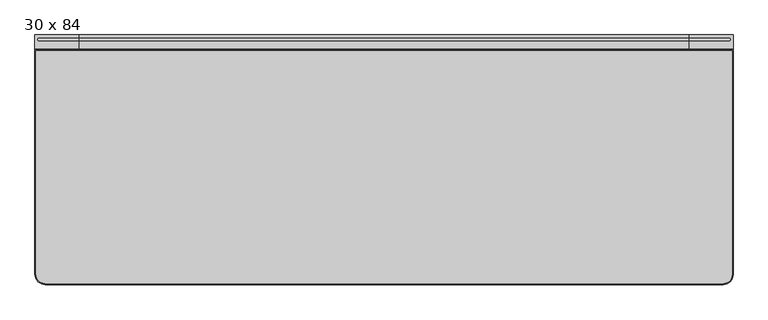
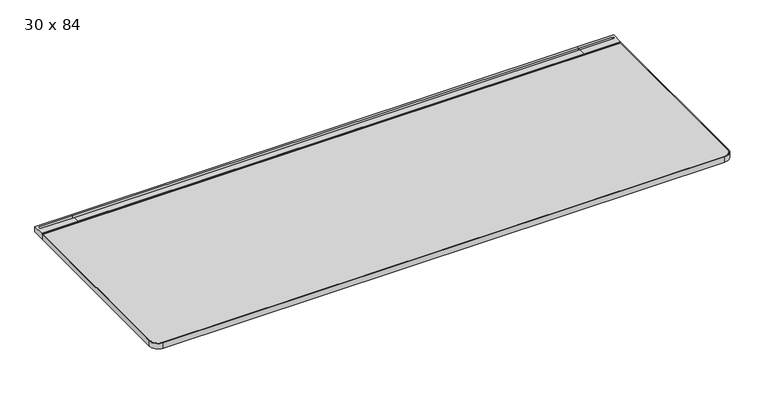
"""IFC4 building model written with IfcOpenShell, lengths in millimetres: furniture geometry, Steelcase - C Scape - Desking - Straight : 30 x 84."""

from ifc_helpers import new_model, si_unit, point, frame, frame_2d, origin, place, context, project, spatial, polyline, circle_curve, trimmed, segment, composite_curve, outline, extrude, faceted_brep, source, transform, mapped, element, save
from ifc_brep_helpers import plane_surface, cylinder_surface, revolved_surface, advanced_brep


def furniture_30_x_84_f73faef1(model_context):
    return source(origin(), model_context, "Body", "SolidModel", [
        advanced_brep(
        [(1999.0562243, -45.3135132, 703.3768), (1999.0562243, -45.3135132, 722.4268341), (1999.0562243, -42.7750923, 722.4268341), (1999.0562243, -42.7750923, 725.932), (1999.0562243, -19.3290527, 725.932), (1999.0562243, -19.3290527, 713.486), (1999.0562243, -8.5111084, 713.486), (1999.0562243, -8.5111084, 725.932), (1999.0562243, 0.0, 725.932), (1999.0562243, 0.0, 705.1038636), (1999.0562243, -3.2278472, 705.1038636), (1999.0562243, -4.0331902, 703.3768), (2132.0760119, -45.3135132, 703.3768), (2132.0760119, -4.0331902, 703.3768), (2132.0760119, -3.2278472, 705.1038636), (2132.0760119, 0.0, 705.1038636), (2132.0760119, 0.0, 725.932), (2132.0760119, -42.7750923, 725.932), (2132.0760119, -42.7750923, 722.4268341), (2132.0760119, -45.3135132, 722.4268341), (2120.3139392, -8.5111084, 725.932), (2120.3139392, -19.3290527, 725.932), (2120.3139392, -19.3290527, 713.486), (2120.3139392, -8.5111084, 713.486)],
        [
            (0, 1),
            (1, 2),
            (2, 3),
            (3, 4),
            (4, 5),
            (5, 6),
            (6, 7),
            (7, 8),
            (8, 9),
            (9, 10),
            (10, 11),
            (11, 0),
            (12, 13),
            (13, 14),
            (14, 15),
            (15, 16),
            (16, 17),
            (17, 18),
            (18, 19),
            (19, 12),
            (11, 13),
            (12, 0),
            (10, 14),
            (9, 15),
            (8, 16),
            (7, 20),
            (20, 21, circle_curve(frame((2120.3139392, -13.9200806, 725.932), z_axis=(0.0, 0.0, -1.0), x_axis=(-1.0, 0.0, 0.0)), 5.4089722)),
            (21, 4),
            (3, 17),
            (2, 18),
            (1, 19),
            (5, 22),
            (22, 23, circle_curve(frame((2120.3139392, -13.9200806, 713.486), z_axis=(0.0, 0.0, 1.0), x_axis=(-1.0, 0.0, 0.0)), 5.4089722)),
            (23, 6),
            (23, 20),
            (22, 21),
        ],
        [
            plane_surface(frame((1999.0562243, -45.3135132, 703.3768), z_axis=(-1.0, 0.0, 0.0), x_axis=(0.0, 1.0, 0.0))),
            plane_surface(frame((2132.0760119, -45.3135132, 703.3768), z_axis=(1.0, 0.0, 0.0), x_axis=(0.0, -1.0, 0.0))),
            plane_surface(frame((1999.0562243, -45.3135132, 703.3768), z_axis=(0.0, 0.0, -1.0), x_axis=(1.0, 0.0, 0.0))),
            plane_surface(frame((1999.0562243, -4.0331902, 703.3768), z_axis=(0.0, 0.9063077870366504, -0.4226182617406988), x_axis=(1.0, 0.0, 0.0))),
            plane_surface(frame((1999.0562243, -3.2278472, 705.1038636), z_axis=(0.0, 0.0, -1.0), x_axis=(1.0, 0.0, 0.0))),
            plane_surface(frame((1999.0562243, 0.0, 705.1038636), z_axis=(0.0, 1.0, 0.0), x_axis=(1.0, 0.0, 0.0))),
            plane_surface(frame((1999.0562243, 0.0, 725.932), z_axis=(0.0, 0.0, 1.0), x_axis=(1.0, 0.0, 0.0))),
            plane_surface(frame((1999.0562243, -42.7750923, 725.932), z_axis=(0.0, -1.0, 0.0), x_axis=(1.0, 0.0, 0.0))),
            plane_surface(frame((1999.0562243, -42.7750923, 722.4268341), z_axis=(0.0, 0.0, 1.0), x_axis=(1.0, 0.0, 0.0))),
            plane_surface(frame((1999.0562243, -45.3135132, 722.4268341), z_axis=(0.0, -1.0, 0.0), x_axis=(1.0, 0.0, 0.0))),
            plane_surface(frame((2120.3139392, -8.5111084, 713.486), z_axis=(0.0, 0.0, 1.0), x_axis=(-1.0, 0.0, 0.0))),
            plane_surface(frame((1999.0562243, -8.5111084, 731.2180541), z_axis=(0.0, -1.0, 0.0), x_axis=(0.0, 0.0, -1.0))),
            revolved_surface(polyline([(2114.904967, -13.9200806, 725.932), (2114.904967, -13.9200806, 713.486)]), (2120.3139392, -13.9200806, 713.486), (0.0, 0.0, 1.0)),
            plane_surface(frame((2120.3139392, -19.3290527, 731.2180541), z_axis=(0.0, 1.0, 0.0), x_axis=(0.0, 0.0, -1.0))),
        ],
        [
            (0, [[1, 2, 3, 4, 5, 6, 7, 8, 9, 10, 11, 12]]),
            (1, [[13, 14, 15, 16, 17, 18, 19, 20]]),
            (2, [[21, -13, 22, -12]]),
            (3, [[23, -14, -21, -11]]),
            (4, [[24, -15, -23, -10]]),
            (5, [[25, -16, -24, -9]]),
            (6, [[-25, -8, 26, 27, 28, -4, 29, -17]]),
            (7, [[30, -18, -29, -3]]),
            (8, [[31, -19, -30, -2]]),
            (9, [[-22, -20, -31, -1]]),
            (10, [[-6, 32, 33, 34]]),
            (11, [[35, -26, -7, -34]]),
            (12, [[36, -27, -35, -33]]),
            (13, [[-5, -28, -36, -32]]),
        ],
    ),
        faceted_brep([(2113.0252487, -565.0752923, 700.7093833), (2113.0252487, -565.0752923, 703.3768), (1999.0562243, -565.0752923, 703.3768), (1999.0562243, -565.0752923, 679.3263935), (2014.6903818, -565.0752923, 679.3263935), (2017.310924, -565.0752923, 693.4200291), (2098.7501391, -565.0752923, 693.4200291), (2113.0252487, -4.0331902, 700.7093833), (2098.7501391, -4.0331902, 693.4200291), (2017.310924, -4.0331902, 693.4200291), (2005.4046772, -4.0331902, 629.3866), (1999.0562243, -4.0331902, 629.3866), (1999.0562243, -4.0331902, 703.3768), (2113.0252487, -4.0331902, 703.3768), (2012.5251068, -376.5599397, 667.6812472), (2005.4046772, -364.1172546, 629.3866), (1999.0562243, -364.1172546, 629.3866), (1999.0562243, -376.5599397, 667.6812472)], [[[0, 1, 2, 3, 4, 5, 6]], [[7, 8, 9, 10, 11, 12, 13]], [[6, 8, 7, 0]], [[5, 9, 8, 6]], [[9, 5, 4, 14, 15, 10]], [[10, 15, 16, 11]], [[11, 16, 17, 3, 2, 12]], [[1, 13, 12, 2]], [[0, 7, 13, 1]], [[14, 4, 3, 17]], [[17, 16, 15, 14]]]),
        extrude(outline(composite_curve([segment(polyline([(-293.5216187, 657.3775839), (-559.0022133, 680.1371551)]), True, "CONTINUOUS"), segment(trimmed(circle_curve(frame_2d((-558.7581271, 682.9843154)), 2.8576039), [point((-559.0022133, 680.1371551))], [point((-561.5383043, 682.3236226))], False, "CARTESIAN"), True, "CONTINUOUS"), segment(polyline([(-561.5383043, 682.3236226), (-566.0887542, 701.4717905), (-557.8334441, 701.4717905), (-557.8334441, 703.3768), (-442.6683806, 703.3768), (-442.6683806, 696.3917953), (-318.2108611, 696.3917953), (-318.2108611, 703.3768), (-293.5216187, 703.3768), (-293.5216187, 657.3775839)]), True, "CONTINUOUS")], self_intersect=False)), frame((1030.224, 0.0, 0.0), z_axis=(1.0, 0.0, 0.0), x_axis=(0.0, 1.0, 0.0)), (0.0, 0.0, 1.0), 73.152),
        advanced_brep(
        [(134.6072876, -45.3135132, 703.3768), (134.6072876, -4.0331902, 703.3768), (134.6072876, -3.2278472, 705.1038636), (134.6072876, 0.0, 705.1038636), (134.6072876, 0.0, 725.932), (134.6072876, -8.5111084, 725.932), (134.6072876, -8.5111084, 713.486), (134.6072876, -19.3290527, 713.486), (134.6072876, -19.3290527, 725.932), (134.6072876, -42.7750923, 725.932), (134.6072876, -42.7750923, 722.4268341), (134.6072876, -45.3135132, 722.4268341), (1.5875, -45.3135132, 703.3768), (1.5875, -45.3135132, 722.4268341), (1.5875, -42.7750923, 722.4268341), (1.5875, -42.7750923, 725.932), (1.5875, 0.0, 725.932), (1.5875, 0.0, 705.1038636), (1.5875, -3.2278472, 705.1038636), (1.5875, -4.0331902, 703.3768), (13.3495728, -19.3290527, 725.932), (13.3495728, -8.5111084, 725.932), (13.3495728, -8.5111084, 713.486), (13.3495728, -19.3290527, 713.486)],
        [
            (0, 1),
            (1, 2),
            (2, 3),
            (3, 4),
            (4, 5),
            (5, 6),
            (6, 7),
            (7, 8),
            (8, 9),
            (9, 10),
            (10, 11),
            (11, 0),
            (12, 13),
            (13, 14),
            (14, 15),
            (15, 16),
            (16, 17),
            (17, 18),
            (18, 19),
            (19, 12),
            (0, 12),
            (19, 1),
            (18, 2),
            (17, 3),
            (16, 4),
            (15, 9),
            (8, 20),
            (20, 21, circle_curve(frame((13.3495728, -13.9200806, 725.932), z_axis=(0.0, 0.0, -1.0), x_axis=(1.0, 0.0, 0.0)), 5.4089722)),
            (21, 5),
            (14, 10),
            (13, 11),
            (6, 22),
            (22, 23, circle_curve(frame((13.3495728, -13.9200806, 713.486), z_axis=(0.0, 0.0, 1.0), x_axis=(1.0, 0.0, 0.0)), 5.4089722)),
            (23, 7),
            (21, 22),
            (20, 23),
        ],
        [
            plane_surface(frame((134.6072876, -45.3135132, 703.3768), z_axis=(1.0, 0.0, 0.0), x_axis=(0.0, 1.0, 0.0))),
            plane_surface(frame((1.5875, -45.3135132, 703.3768), z_axis=(-1.0, 0.0, 0.0), x_axis=(0.0, -1.0, 0.0))),
            plane_surface(frame((134.6072876, -45.3135132, 703.3768), z_axis=(0.0, 0.0, -1.0), x_axis=(-1.0, 0.0, 0.0))),
            plane_surface(frame((134.6072876, -4.0331902, 703.3768), z_axis=(0.0, 0.9063077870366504, -0.4226182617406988), x_axis=(-1.0, 0.0, 0.0))),
            plane_surface(frame((134.6072876, -3.2278472, 705.1038636), z_axis=(0.0, 0.0, -1.0), x_axis=(-1.0, 0.0, 0.0))),
            plane_surface(frame((134.6072876, 0.0, 705.1038636), z_axis=(0.0, 1.0, 0.0), x_axis=(-1.0, 0.0, 0.0))),
            plane_surface(frame((134.6072876, 0.0, 725.932), z_axis=(0.0, 0.0, 1.0), x_axis=(-1.0, 0.0, 0.0))),
            plane_surface(frame((134.6072876, -42.7750923, 725.932), z_axis=(0.0, -1.0, 0.0), x_axis=(-1.0, 0.0, 0.0))),
            plane_surface(frame((134.6072876, -42.7750923, 722.4268341), z_axis=(0.0, 0.0, 1.0), x_axis=(-1.0, 0.0, 0.0))),
            plane_surface(frame((134.6072876, -45.3135132, 722.4268341), z_axis=(0.0, -1.0, 0.0), x_axis=(-1.0, 0.0, 0.0))),
            plane_surface(frame((13.3495728, -8.5111084, 713.486), z_axis=(0.0, 0.0, 1.0), x_axis=(1.0, 0.0, 0.0))),
            plane_surface(frame((134.6072876, -8.5111084, 731.2180541), z_axis=(0.0, -1.0, 0.0), x_axis=(0.0, 0.0, -1.0))),
            revolved_surface(polyline([(18.758545, -13.9200806, 725.932), (18.758545, -13.9200806, 713.486)]), (13.3495728, -13.9200806, 713.486), (0.0, 0.0, 1.0)),
            plane_surface(frame((13.3495728, -19.3290527, 731.2180541), z_axis=(0.0, 1.0, 0.0), x_axis=(0.0, 0.0, -1.0))),
        ],
        [
            (0, [[1, 2, 3, 4, 5, 6, 7, 8, 9, 10, 11, 12]]),
            (1, [[13, 14, 15, 16, 17, 18, 19, 20]]),
            (2, [[-1, 21, -20, 22]]),
            (3, [[-2, -22, -19, 23]]),
            (4, [[-3, -23, -18, 24]]),
            (5, [[-4, -24, -17, 25]]),
            (6, [[-16, 26, -9, 27, 28, 29, -5, -25]]),
            (7, [[-10, -26, -15, 30]]),
            (8, [[-11, -30, -14, 31]]),
            (9, [[-12, -31, -13, -21]]),
            (10, [[32, 33, 34, -7]]),
            (11, [[-32, -6, -29, 35]]),
            (12, [[-33, -35, -28, 36]]),
            (13, [[-34, -36, -27, -8]]),
        ],
    ),
        faceted_brep([(20.6382632, -565.0752923, 700.7093833), (34.9133728, -565.0752923, 693.4200291), (116.3525879, -565.0752923, 693.4200291), (118.9731301, -565.0752923, 679.3263935), (134.6072876, -565.0752923, 679.3263935), (134.6072876, -565.0752923, 703.3768), (20.6382632, -565.0752923, 703.3768), (20.6382632, -4.0331902, 700.7093833), (20.6382632, -4.0331902, 703.3768), (134.6072876, -4.0331902, 703.3768), (134.6072876, -4.0331902, 629.3866), (128.2588347, -4.0331902, 629.3866), (116.3525879, -4.0331902, 693.4200291), (34.9133728, -4.0331902, 693.4200291), (128.2588347, -364.1172546, 629.3866), (121.1384051, -376.5599397, 667.6812472), (134.6072876, -364.1172546, 629.3866), (134.6072876, -376.5599397, 667.6812472)], [[[0, 1, 2, 3, 4, 5, 6]], [[7, 8, 9, 10, 11, 12, 13]], [[1, 0, 7, 13]], [[2, 1, 13, 12]], [[12, 11, 14, 15, 3, 2]], [[11, 10, 16, 14]], [[10, 9, 5, 4, 17, 16]], [[6, 5, 9, 8]], [[0, 6, 8, 7]], [[15, 17, 4, 3]], [[17, 15, 14, 16]]]),
        extrude(outline(polyline([(-8.5111084, 725.932), (0.0, 725.932), (0.0, 705.1038636), (-3.2278472, 705.1038636), (-4.0331902, 703.3768), (-45.3135132, 703.3768), (-45.3135132, 722.4268341), (-42.7750923, 722.4268341), (-42.7750923, 725.932), (-19.3290527, 725.932), (-19.3290527, 713.486), (-8.5111084, 713.486), (-8.5111084, 725.932)])), frame((134.6072876, 0.0, 0.0), z_axis=(1.0, 0.0, 0.0), x_axis=(0.0, 1.0, 0.0)), (0.0, 0.0, 1.0), 1864.4489367),
        extrude(outline(polyline([(134.6072876, -293.5216187), (134.6072876, -4.0331902), (1999.0562243, -4.0331902), (1999.0562243, -293.5216187), (134.6072876, -293.5216187)])), frame((0.0, 0.0, 629.3866), z_axis=(0.0, 0.0, 1.0), x_axis=(1.0, 0.0, 0.0)), (0.0, 0.0, 1.0), 73.9902),
        advanced_brep(
        [(4.6355, -48.3660689, 723.9), (4.6355, -730.25, 723.9), (33.3375, -758.9490234, 723.9), (2102.2737019, -758.9490234, 723.9), (2129.0273608, -732.1953645, 723.9), (2129.0273608, -48.3660689, 723.9), (4.6355, -48.3660689, 703.3768), (2129.0273608, -48.3660689, 703.3768), (2129.0273608, -732.1953645, 703.3768), (2102.2737019, -758.9490234, 703.3768), (33.3375, -758.9490234, 703.3768), (4.6384766, -730.25, 703.3768)],
        [
            (0, 1),
            (1, 2, circle_curve(frame((33.3375, -730.25, 723.9), z_axis=(0.0, 0.0, 1.0), x_axis=(1.0, 0.0, 0.0)), 28.6990234)),
            (2, 3),
            (3, 4, circle_curve(frame((2102.2737019, -732.1953645, 723.9), z_axis=(0.0, 0.0, 1.0), x_axis=(1.0, 0.0, 0.0)), 26.7536589)),
            (4, 5),
            (5, 0),
            (6, 7),
            (7, 8),
            (8, 9, circle_curve(frame((2102.2737019, -732.1953645, 703.3768), z_axis=(0.0, 0.0, -1.0), x_axis=(1.0, 0.0, 0.0)), 26.7536589)),
            (9, 10),
            (10, 11, circle_curve(frame((33.3375, -730.25, 703.3768), z_axis=(0.0, 0.0, -1.0), x_axis=(1.0, 0.0, 0.0)), 28.6990234)),
            (11, 6),
            (0, 6),
            (11, 1),
            (10, 2),
            (9, 3),
            (8, 4),
            (7, 5),
        ],
        [
            plane_surface(frame((4.6355, -48.3660689, 723.9), z_axis=(0.0, 0.0, 1.0), x_axis=(0.0, -1.0, 0.0))),
            plane_surface(frame((4.6355, -48.3660689, 703.3768), z_axis=(0.0, 0.0, -1.0), x_axis=(0.0, 1.0, 0.0))),
            plane_surface(frame((4.6355, -48.3660689, 723.9), z_axis=(-1.0, 0.0, 0.0), x_axis=(0.0, 0.0, -1.0))),
            cylinder_surface(frame((33.3375, -730.25, 703.3768), z_axis=(0.0, 0.0, 1.0), x_axis=(1.0, 0.0, 0.0)), 28.6990234),
            plane_surface(frame((33.3375, -758.9490234, 723.9), z_axis=(0.0, -1.0, 0.0), x_axis=(0.0, 0.0, -1.0))),
            cylinder_surface(frame((2102.2737019, -732.1953645, 703.3768), z_axis=(0.0, 0.0, 1.0), x_axis=(1.0, 0.0, 0.0)), 26.7536589),
            plane_surface(frame((2129.0273608, -732.1953645, 723.9), z_axis=(1.0, 0.0, 0.0), x_axis=(0.0, 0.0, -1.0))),
            plane_surface(frame((2129.0273608, -48.3660689, 723.9), z_axis=(0.0, 1.0, 0.0), x_axis=(0.0, 0.0, -1.0))),
        ],
        [
            (0, [[1, 2, 3, 4, 5, 6]]),
            (1, [[7, 8, 9, 10, 11, 12]]),
            (2, [[-1, 13, -12, 14]]),
            (3, [[-2, -14, -11, 15]]),
            (4, [[-3, -15, -10, 16]]),
            (5, [[-4, -16, -9, 17]]),
            (6, [[-5, -17, -8, 18]]),
            (7, [[-6, -18, -7, -13]]),
        ],
    ),
        extrude(outline(composite_curve([segment(trimmed(circle_curve(frame_2d((33.3375, -730.25)), 31.75), [point((33.3375, -762.0))], [point((1.5875, -730.25))], False, "CARTESIAN"), True, "CONTINUOUS"), segment(polyline([(1.5875, -730.25), (1.5875, -45.3150923), (2132.076, -45.3150923), (2132.076, -732.1250374)]), True, "CONTINUOUS"), segment(trimmed(circle_curve(frame_2d((2102.2010374, -732.1250374)), 29.8749626), [point((2132.076, -732.1250374))], [point((2102.2010374, -762.0))], False, "CARTESIAN"), True, "CONTINUOUS"), segment(polyline([(2102.2010374, -762.0), (33.3375, -762.0)]), True, "CONTINUOUS")], self_intersect=False), holes=[composite_curve([segment(polyline([(2129.0250234, -48.3660689), (4.6384766, -48.3660689), (4.6384766, -730.25)]), True, "CONTINUOUS"), segment(trimmed(circle_curve(frame_2d((33.3375, -730.25)), 28.6990234), [point((4.6384766, -730.25))], [point((33.3375, -758.9490234))], True, "CARTESIAN"), True, "CONTINUOUS"), segment(polyline([(33.3375, -758.9490234), (2102.2010374, -758.9490234)]), True, "CONTINUOUS"), segment(trimmed(circle_curve(frame_2d((2102.2010374, -732.1250374)), 26.8239861), [point((2102.2010374, -758.9490234))], [point((2129.0250234, -732.1250374))], True, "CARTESIAN"), True, "CONTINUOUS"), segment(polyline([(2129.0250234, -732.1250374), (2129.0250234, -48.3660689)]), True, "CONTINUOUS")], self_intersect=False)]), frame((0.0, 0.0, 703.3768), z_axis=(0.0, 0.0, 1.0), x_axis=(1.0, 0.0, 0.0)), (0.0, 0.0, 1.0), 20.5232),
    ])


if __name__ == "__main__":
    model = new_model("IFC4")
    model_context = context("Model", 3, world=origin())
    ifc_project = project(units=[si_unit("LENGTHUNIT", "METRE", prefix="MILLI")], contexts=[model_context])
    site = spatial("IfcSite", under=ifc_project)
    building = spatial("IfcBuilding", under=site)
    placement = place(None, origin())
    furniture_30_x_84_shape = furniture_30_x_84_f73faef1(model_context)
    element("IfcFurniture", 1, ObjectType="Steelcase - C Scape - Desking - Straight : 30 x 84", at=placement, inside=building, context=model_context, shape_type="MappedRepresentation", body=[
        mapped(furniture_30_x_84_shape, transform((0.0, 0.0, 0.0), x_axis=(1.0, 0.0, 0.0), y_axis=(0.0, 1.0, 0.0), z_axis=(0.0, 0.0, 1.0))),
    ])
    save(model, "model.ifc")
